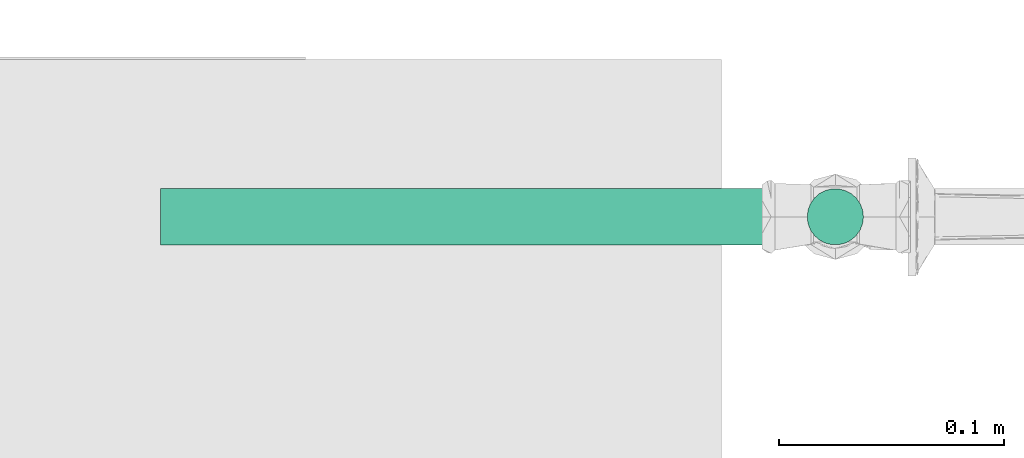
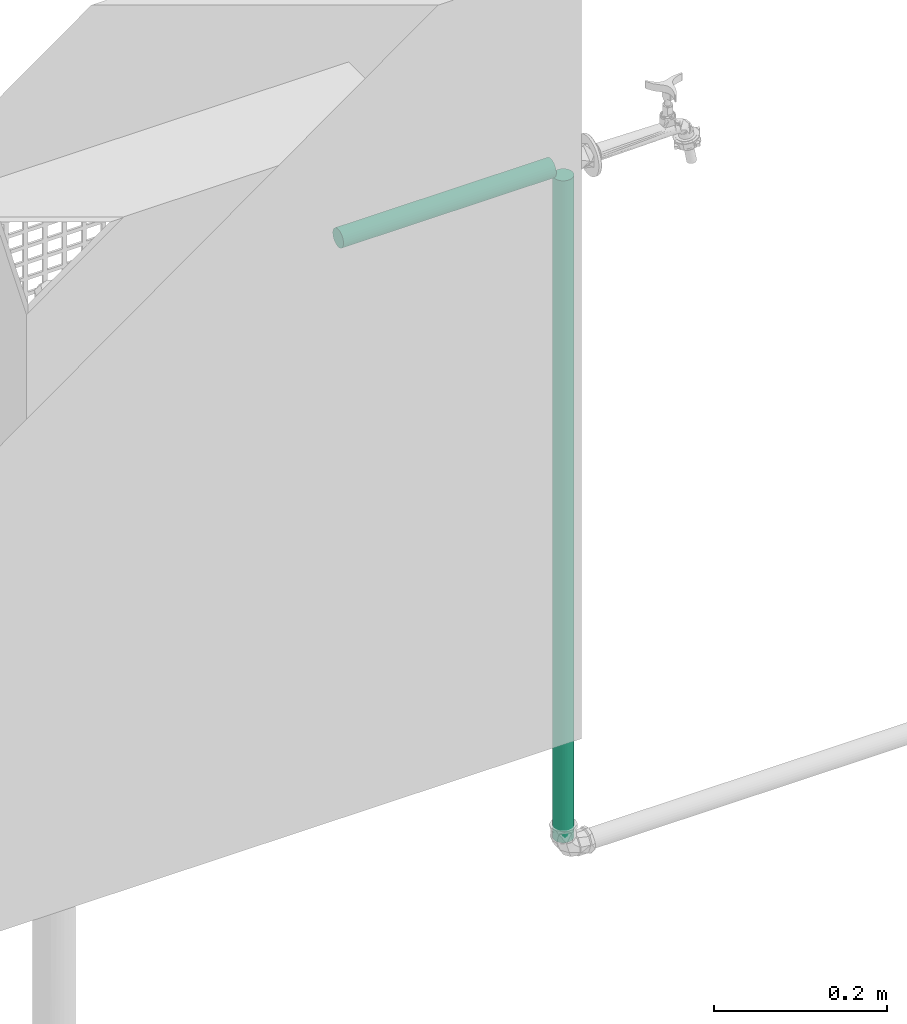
# One storey, part 25 of 589: 2 flow segments.
"""IFC2X3 building model written with IfcOpenShell, lengths in millimetres."""

from ifc_helpers import new_model, entity, si_unit, converted_unit, derived_unit, direction, frame, origin, origin_2d_with_axis, place, context, subcontext, project, spatial, circle, extrude, type_object, element, save


model = new_model("IFC2X3")

# Units and contexts
model_context = context("Model", 3, precision=0.01, world=origin(), true_north=direction((6.123031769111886e-17, 1.0)))
body_context = subcontext(model_context, "Body", "Model", "MODEL_VIEW")
ifc_project = project(units=[si_unit("LENGTHUNIT", "METRE", prefix="MILLI"), si_unit("AREAUNIT", "SQUARE_METRE"), si_unit("VOLUMEUNIT", "CUBIC_METRE"), converted_unit("PLANEANGLEUNIT", "DEGREE", entity("IfcRatioMeasure", 0.017453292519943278), si_unit("PLANEANGLEUNIT", "RADIAN"), dimensions=[0, 0, 0, 0, 0, 0, 0]), si_unit("MASSUNIT", "GRAM", prefix="KILO"), derived_unit("MASSDENSITYUNIT", [(si_unit("MASSUNIT", "GRAM", prefix="KILO"), 1), (si_unit("LENGTHUNIT", "METRE"), -3)]), derived_unit("IONCONCENTRATIONUNIT", [(si_unit("MASSUNIT", "GRAM", prefix="KILO"), 1), (si_unit("LENGTHUNIT", "METRE"), -3)]), derived_unit("MOMENTOFINERTIAUNIT", [(si_unit("LENGTHUNIT", "METRE"), 4)]), si_unit("TIMEUNIT", "SECOND"), si_unit("FREQUENCYUNIT", "HERTZ"), si_unit("THERMODYNAMICTEMPERATUREUNIT", "DEGREE_CELSIUS"), derived_unit("THERMALTRANSMITTANCEUNIT", [(si_unit("MASSUNIT", "GRAM", prefix="KILO"), 1), (si_unit("THERMODYNAMICTEMPERATUREUNIT", "KELVIN"), -1), (si_unit("TIMEUNIT", "SECOND"), -3)]), derived_unit("THERMALCONDUCTANCEUNIT", [(si_unit("MASSUNIT", "GRAM", prefix="KILO"), 1), (si_unit("THERMODYNAMICTEMPERATUREUNIT", "KELVIN"), -1), (si_unit("TIMEUNIT", "SECOND"), -3), (si_unit("LENGTHUNIT", "METRE"), 1)]), derived_unit("VOLUMETRICFLOWRATEUNIT", [(si_unit("LENGTHUNIT", "METRE"), 3), (si_unit("TIMEUNIT", "SECOND"), -1)]), derived_unit("MASSFLOWRATEUNIT", [(si_unit("MASSUNIT", "GRAM", prefix="KILO"), 1), (si_unit("TIMEUNIT", "SECOND"), -1)]), derived_unit("ROTATIONALFREQUENCYUNIT", [(si_unit("TIMEUNIT", "SECOND"), -1)]), si_unit("ELECTRICCURRENTUNIT", "AMPERE"), si_unit("ELECTRICVOLTAGEUNIT", "VOLT"), si_unit("POWERUNIT", "WATT"), si_unit("FORCEUNIT", "NEWTON", prefix="KILO"), si_unit("ILLUMINANCEUNIT", "LUX"), si_unit("LUMINOUSFLUXUNIT", "LUMEN"), si_unit("LUMINOUSINTENSITYUNIT", "CANDELA"), derived_unit("USERDEFINED", [(si_unit("MASSUNIT", "GRAM", prefix="KILO"), -1), (si_unit("LENGTHUNIT", "METRE"), -2), (si_unit("TIMEUNIT", "SECOND"), 3), (si_unit("LUMINOUSFLUXUNIT", "LUMEN"), 1)]), derived_unit("USERDEFINED", [(si_unit("MASSUNIT", "GRAM", prefix="KILO"), 1), (si_unit("TIMEUNIT", "SECOND"), -3), (si_unit("LENGTHUNIT", "METRE"), 3), (si_unit("ELECTRICCURRENTUNIT", "AMPERE"), -2)]), derived_unit("SOUNDPOWERUNIT", [(si_unit("MASSUNIT", "GRAM", prefix="KILO"), 1), (si_unit("TIMEUNIT", "SECOND"), -3), (si_unit("LENGTHUNIT", "METRE"), 2)]), derived_unit("SOUNDPRESSUREUNIT", [(si_unit("MASSUNIT", "GRAM", prefix="KILO"), 1), (si_unit("LENGTHUNIT", "METRE"), -1), (si_unit("TIMEUNIT", "SECOND"), -2)]), derived_unit("LINEARVELOCITYUNIT", [(si_unit("LENGTHUNIT", "METRE"), 1), (si_unit("TIMEUNIT", "SECOND"), -1)]), si_unit("PRESSUREUNIT", "PASCAL"), derived_unit("USERDEFINED", [(si_unit("MASSUNIT", "GRAM", prefix="KILO"), 1), (si_unit("LENGTHUNIT", "METRE"), -2), (si_unit("TIMEUNIT", "SECOND"), -2)]), derived_unit("LINEARFORCEUNIT", [(si_unit("MASSUNIT", "GRAM", prefix="KILO"), 1), (si_unit("TIMEUNIT", "SECOND"), -2)]), derived_unit("PLANARFORCEUNIT", [(si_unit("MASSUNIT", "GRAM", prefix="KILO"), 1), (si_unit("LENGTHUNIT", "METRE"), -1), (si_unit("TIMEUNIT", "SECOND"), -2)]), derived_unit("SPECIFICHEATCAPACITYUNIT", [(si_unit("THERMODYNAMICTEMPERATUREUNIT", "KELVIN"), -1), (si_unit("LENGTHUNIT", "METRE"), 2), (si_unit("TIMEUNIT", "SECOND"), -2)]), derived_unit("HEATINGVALUEUNIT", [(si_unit("LENGTHUNIT", "METRE"), 2), (si_unit("TIMEUNIT", "SECOND"), -2)]), derived_unit("VAPORPERMEABILITYUNIT", [(si_unit("LENGTHUNIT", "METRE"), -1), (si_unit("TIMEUNIT", "SECOND"), 1)]), derived_unit("DYNAMICVISCOSITYUNIT", [(si_unit("MASSUNIT", "GRAM", prefix="KILO"), 1), (si_unit("TIMEUNIT", "SECOND"), -1), (si_unit("LENGTHUNIT", "METRE"), -1)]), derived_unit("THERMALEXPANSIONCOEFFICIENTUNIT", [(si_unit("THERMODYNAMICTEMPERATUREUNIT", "KELVIN"), -1)]), derived_unit("MODULUSOFELASTICITYUNIT", [(si_unit("MASSUNIT", "GRAM", prefix="KILO"), 1), (si_unit("LENGTHUNIT", "METRE"), -1), (si_unit("TIMEUNIT", "SECOND"), -2)]), derived_unit("ISOTHERMALMOISTURECAPACITYUNIT", [(si_unit("LENGTHUNIT", "METRE"), 3), (si_unit("MASSUNIT", "GRAM", prefix="KILO"), -1)]), derived_unit("MOISTUREDIFFUSIVITYUNIT", [(si_unit("TIMEUNIT", "SECOND"), -1), (si_unit("LENGTHUNIT", "METRE"), 2)])], contexts=[model_context])

# Site, building, storey
site_placement = place(None, origin())
site = spatial("IfcSite", under=ifc_project, at=site_placement, Name="Default", CompositionType="ELEMENT")
building_placement = place(site_placement, origin())
building = spatial("IfcBuilding", under=site, at=building_placement, CompositionType="ELEMENT")
storey_placement = place(building_placement, frame((0.0, 0.0, 100.0)))
storey = spatial("IfcBuildingStorey", under=building, at=storey_placement, Name="TÉRREO", CompositionType="ELEMENT", Elevation=100.0)

# Flow segments
pipe_segment_type = type_object("IfcPipeSegmentType", Name="Tipos de tubos:PVC Marrom Soldável", PredefinedType="NOTDEFINED")
flow_segment_1_placement = place(storey_placement, origin())
element("IfcFlowSegment", 1, at=flow_segment_1_placement, inside=storey, type_object=pipe_segment_type, Name="Tipos de tubos:PVC Marrom Soldável", ObjectType="Tipos de tubos:PVC Marrom Soldável", context=body_context, shape_type="SweptSolid", body=[
    extrude(circle(Radius=12.5, at=origin_2d_with_axis()), frame((-5755.984919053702, -14466.3278745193, 713.5763103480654), z_axis=(1.0, 0.0, 0.0), x_axis=(0.0, -1.0, 0.0)), (0.0, 0.0, 1.0), 283.59999999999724),
])
flow_segment_2_placement = place(storey_placement, origin())
element("IfcFlowSegment", 2, at=flow_segment_2_placement, inside=storey, type_object=pipe_segment_type, Name="Tipos de tubos:PVC Marrom Soldável", ObjectType="Tipos de tubos:PVC Marrom Soldável", context=body_context, shape_type="SweptSolid", body=[
    extrude(circle(Radius=12.5, at=origin_2d_with_axis()), frame((-5455.984919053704, -14466.3278745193, -234.59999999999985)), (0.0, 0.0, 1.0), 932.2763103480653),
])

save(model, "model.ifc")
